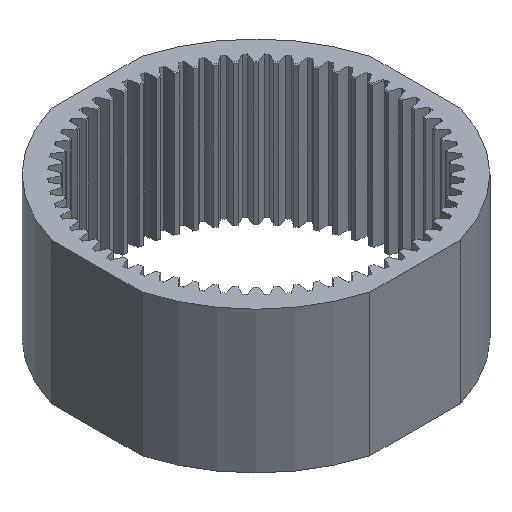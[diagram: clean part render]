
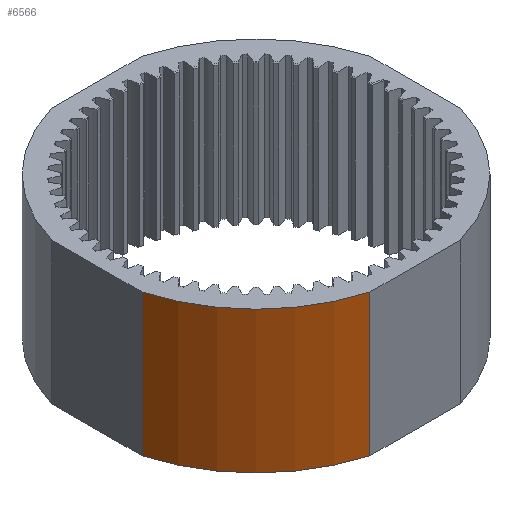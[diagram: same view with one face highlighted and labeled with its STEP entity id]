
A CAD part, isometric view. The second image highlights one B-rep face of the part: STEP entity #6566.
In plain terms, the highlighted cylindrical face has radius 210 mm (diameter 420 mm), a partial arc.
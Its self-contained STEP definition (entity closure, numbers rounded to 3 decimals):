
#390=CYLINDRICAL_SURFACE('',#7218,210.);
#636=CIRCLE('',#6973,210.);
#880=CIRCLE('',#7219,210.);
#1249=FACE_OUTER_BOUND('',#1621,.T.);
#1621=EDGE_LOOP('',(#4607,#4608,#4609,#4610));
#1994=LINE('',#10198,#2250);
#1996=LINE('',#10203,#2252);
#2250=VECTOR('',#7967,10.);
#2252=VECTOR('',#7971,10.);
#2506=VERTEX_POINT('',#10195);
#2507=VERTEX_POINT('',#10197);
#2508=VERTEX_POINT('',#10201);
#2509=VERTEX_POINT('',#10202);
#3243=EDGE_CURVE('',#2507,#2506,#1994,.T.);
#3245=EDGE_CURVE('',#2508,#2509,#1996,.T.);
#3250=EDGE_CURVE('',#2507,#2509,#636,.T.);
#3496=EDGE_CURVE('',#2506,#2508,#880,.T.);
#4607=ORIENTED_EDGE('',*,*,#3243,.T.);
#4608=ORIENTED_EDGE('',*,*,#3496,.T.);
#4609=ORIENTED_EDGE('',*,*,#3245,.T.);
#4610=ORIENTED_EDGE('',*,*,#3250,.F.);
#6566=ADVANCED_FACE('',(#1249),#390,.T.);
#6973=AXIS2_PLACEMENT_3D('',#10211,#7979,#7980);
#7218=AXIS2_PLACEMENT_3D('',#10701,#8471,#8472);
#7219=AXIS2_PLACEMENT_3D('',#10702,#8473,#8474);
#7967=DIRECTION('',(0.,0.,1.));
#7971=DIRECTION('',(0.,0.,-1.));
#7979=DIRECTION('center_axis',(0.,0.,-1.));
#7980=DIRECTION('ref_axis',(-1.,0.,0.));
#8471=DIRECTION('center_axis',(0.,0.,1.));
#8472=DIRECTION('ref_axis',(-1.,0.,0.));
#8473=DIRECTION('center_axis',(0.,0.,-1.));
#8474=DIRECTION('ref_axis',(-1.,0.,0.));
#10195=CARTESIAN_POINT('',(-57.411,-202.,180.));
#10197=CARTESIAN_POINT('',(-57.411,-202.,0.));
#10198=CARTESIAN_POINT('',(-57.411,-202.,0.));
#10201=CARTESIAN_POINT('',(-202.,-57.411,180.));
#10202=CARTESIAN_POINT('',(-202.,-57.411,0.));
#10203=CARTESIAN_POINT('',(-202.,-57.411,0.));
#10211=CARTESIAN_POINT('Origin',(0.,0.,0.));
#10701=CARTESIAN_POINT('Origin',(0.,0.,0.));
#10702=CARTESIAN_POINT('Origin',(0.,0.,180.));
